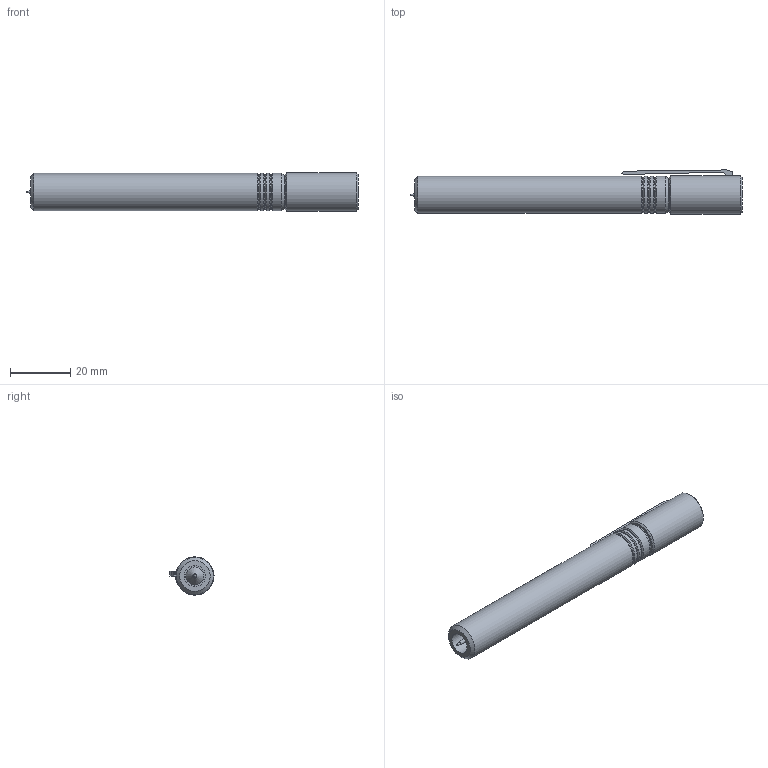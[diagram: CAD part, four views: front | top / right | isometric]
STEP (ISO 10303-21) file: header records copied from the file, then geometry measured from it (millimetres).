
FILE_DESCRIPTION(('Open CASCADE Model'),'2;1');
FILE_NAME('Open CASCADE Shape Model','2026-11-25T12:43:01',('Author'),( 'Open CASCADE'),'Open CASCADE STEP processor 8.0','Open CASCADE 8.0' ,'Unknown');
FILE_SCHEMA(('AP242_MANAGED_MODEL_BASED_3D_ENGINEERING_MIM_LF {1 0 10303 442 1 1 4 }' ));
Length unit declared in the file: millimetre
Products named in the file (4): Barrel; Threaded cap; Refill; Pocket clip
Bounding box: 109.88 x 14.6 x 12.7 mm (x, y, z)
Volume: 10639.1 mm3; surface area: 9730.4 mm2
Topology: 4 solids, 4 shells, 72 faces, 167 edges, 105 vertices
Faces by surface type: cylinder 34, plane 18, cone 14, bspline 6
Full cylindrical faces by diameter (mm): 6 x1, 7 x1, 9.388 x10, 10 x9, 10.3 x1, 11.5 x3, 12.3 x4, 12.7 x1
Entity records: 14737 total; most frequent: CARTESIAN_POINT 11560, DIRECTION 483, ORIENTED_EDGE 332, PCURVE 332, DEFINITIONAL_REPRESENTATION 332, LINE 271, VECTOR 271, B_SPLINE_CURVE_WITH_KNOTS 181
